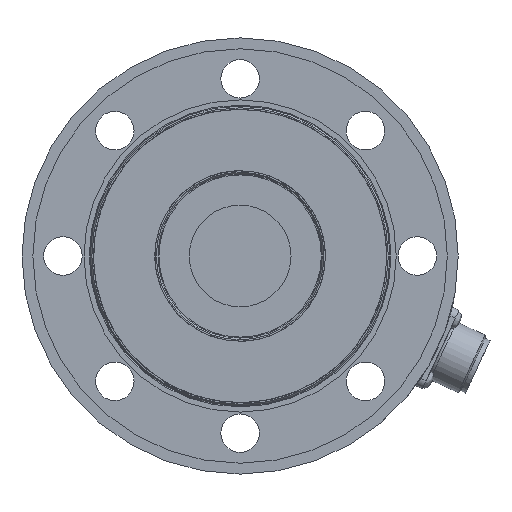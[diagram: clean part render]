
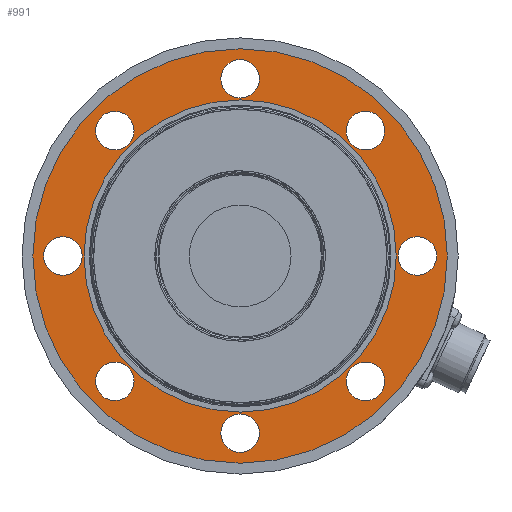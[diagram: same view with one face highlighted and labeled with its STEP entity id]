
A CAD part, front view. The second image highlights one B-rep face of the part: STEP entity #991.
In plain terms, the highlighted planar face has unit normal (0, -1, 0).
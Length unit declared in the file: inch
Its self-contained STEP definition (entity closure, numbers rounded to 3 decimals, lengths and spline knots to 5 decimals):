
#32 = FACE_BOUND ( 'NONE', #2883, .T. ) ;
#43 = EDGE_CURVE ( 'NONE', #1572, #1572, #1064, .T. ) ;
#68 = FACE_BOUND ( 'NONE', #2516, .T. ) ;
#107 = CARTESIAN_POINT ( 'NONE',  ( 0., 0.015, -2.4375 ) ) ;
#176 = DIRECTION ( 'NONE',  ( 1., 0., 0. ) ) ;
#189 = ORIENTED_EDGE ( 'NONE', *, *, #2786, .T. ) ;
#240 = DIRECTION ( 'NONE',  ( -1., 0., 0. ) ) ;
#450 = CARTESIAN_POINT ( 'NONE',  ( -2.4375, 0.015, 0. ) ) ;
#508 = CIRCLE ( 'NONE', #2051, 0.265 ) ;
#546 = VERTEX_POINT ( 'NONE', #3677 ) ;
#741 = CARTESIAN_POINT ( 'NONE',  ( 1.98857, 0.015, 1.72357 ) ) ;
#777 = DIRECTION ( 'NONE',  ( 1., 0., 0. ) ) ;
#780 = CIRCLE ( 'NONE', #2572, 2.147 ) ;
#786 = CARTESIAN_POINT ( 'NONE',  ( 0.265, 0.015, -2.4375 ) ) ;
#803 = VERTEX_POINT ( 'NONE', #741 ) ;
#812 = CARTESIAN_POINT ( 'NONE',  ( -2.85, 0.015, 0. ) ) ;
#819 = EDGE_CURVE ( 'NONE', #1904, #1904, #1284, .T. ) ;
#846 = VERTEX_POINT ( 'NONE', #1718 ) ;
#875 = FACE_BOUND ( 'NONE', #1299, .T. ) ;
#911 = FACE_BOUND ( 'NONE', #2805, .T. ) ;
#991 = ADVANCED_FACE ( 'NONE', ( #1742, #3465, #68, #911, #3426, #2535, #1698, #875, #32, #3313 ), #1741, .F. ) ;
#992 = EDGE_CURVE ( 'NONE', #2024, #2024, #780, .T. ) ;
#1005 = CARTESIAN_POINT ( 'NONE',  ( 1.98857, 0.015, -1.72357 ) ) ;
#1036 = CARTESIAN_POINT ( 'NONE',  ( -2.147, 0.015, 0. ) ) ;
#1053 = CARTESIAN_POINT ( 'NONE',  ( -1.72357, 0.015, 1.72357 ) ) ;
#1064 = CIRCLE ( 'NONE', #3836, 0.265 ) ;
#1129 = CARTESIAN_POINT ( 'NONE',  ( 0., 0.015, 0. ) ) ;
#1284 = CIRCLE ( 'NONE', #3762, 0.265 ) ;
#1287 = CARTESIAN_POINT ( 'NONE',  ( -1.72357, 0.015, -1.72357 ) ) ;
#1299 = EDGE_LOOP ( 'NONE', ( #2124 ) ) ;
#1312 = DIRECTION ( 'NONE',  ( 0., 1., 0. ) ) ;
#1316 = CIRCLE ( 'NONE', #2374, 0.265 ) ;
#1348 = DIRECTION ( 'NONE',  ( 0., 1., 0. ) ) ;
#1359 = DIRECTION ( 'NONE',  ( 1., 0., 0. ) ) ;
#1443 = DIRECTION ( 'NONE',  ( -1., 0., 0. ) ) ;
#1490 = EDGE_CURVE ( 'NONE', #803, #803, #2192, .T. ) ;
#1536 = CARTESIAN_POINT ( 'NONE',  ( 2.4375, 0.015, 0. ) ) ;
#1558 = ORIENTED_EDGE ( 'NONE', *, *, #3516, .T. ) ;
#1570 = AXIS2_PLACEMENT_3D ( 'NONE', #3271, #1348, #3613 ) ;
#1572 = VERTEX_POINT ( 'NONE', #1005 ) ;
#1608 = DIRECTION ( 'NONE',  ( 1., 0., 0. ) ) ;
#1698 = FACE_BOUND ( 'NONE', #3170, .T. ) ;
#1718 = CARTESIAN_POINT ( 'NONE',  ( 2.7025, 0.015, 0. ) ) ;
#1741 = PLANE ( 'NONE',  #2781 ) ;
#1742 = FACE_BOUND ( 'NONE', #3799, .T. ) ;
#1780 = CIRCLE ( 'NONE', #3519, 0.265 ) ;
#1784 = DIRECTION ( 'NONE',  ( 1., 0., 0. ) ) ;
#1846 = DIRECTION ( 'NONE',  ( 1., 0., 0. ) ) ;
#1904 = VERTEX_POINT ( 'NONE', #2288 ) ;
#1909 = ORIENTED_EDGE ( 'NONE', *, *, #992, .F. ) ;
#1984 = DIRECTION ( 'NONE',  ( 0., 1., 0. ) ) ;
#1989 = EDGE_CURVE ( 'NONE', #3019, #3019, #508, .T. ) ;
#1997 = ORIENTED_EDGE ( 'NONE', *, *, #3804, .T. ) ;
#2024 = VERTEX_POINT ( 'NONE', #1036 ) ;
#2051 = AXIS2_PLACEMENT_3D ( 'NONE', #1053, #3279, #1359 ) ;
#2054 = CARTESIAN_POINT ( 'NONE',  ( -2.1725, 0.015, 0. ) ) ;
#2121 = DIRECTION ( 'NONE',  ( 0., -1., 0. ) ) ;
#2124 = ORIENTED_EDGE ( 'NONE', *, *, #2979, .T. ) ;
#2192 = CIRCLE ( 'NONE', #2630, 0.265 ) ;
#2229 = AXIS2_PLACEMENT_3D ( 'NONE', #107, #1984, #1784 ) ;
#2288 = CARTESIAN_POINT ( 'NONE',  ( -1.45857, 0.015, -1.72357 ) ) ;
#2315 = ORIENTED_EDGE ( 'NONE', *, *, #1989, .T. ) ;
#2350 = AXIS2_PLACEMENT_3D ( 'NONE', #4111, #2121, #240 ) ;
#2374 = AXIS2_PLACEMENT_3D ( 'NONE', #1536, #3807, #1846 ) ;
#2405 = EDGE_LOOP ( 'NONE', ( #189 ) ) ;
#2516 = EDGE_LOOP ( 'NONE', ( #2702 ) ) ;
#2535 = FACE_BOUND ( 'NONE', #3286, .T. ) ;
#2572 = AXIS2_PLACEMENT_3D ( 'NONE', #1129, #3376, #1443 ) ;
#2630 = AXIS2_PLACEMENT_3D ( 'NONE', #3243, #1312, #3574 ) ;
#2655 = DIRECTION ( 'NONE',  ( 0., 1., 0. ) ) ;
#2702 = ORIENTED_EDGE ( 'NONE', *, *, #819, .T. ) ;
#2763 = CIRCLE ( 'NONE', #2229, 0.265 ) ;
#2781 = AXIS2_PLACEMENT_3D ( 'NONE', #4037, #3008, #176 ) ;
#2786 = EDGE_CURVE ( 'NONE', #4088, #4088, #2763, .T. ) ;
#2787 = ORIENTED_EDGE ( 'NONE', *, *, #1490, .T. ) ;
#2805 = EDGE_LOOP ( 'NONE', ( #3080 ) ) ;
#2860 = CIRCLE ( 'NONE', #2350, 2.85 ) ;
#2883 = EDGE_LOOP ( 'NONE', ( #1909 ) ) ;
#2918 = CIRCLE ( 'NONE', #1570, 0.265 ) ;
#2979 = EDGE_CURVE ( 'NONE', #846, #846, #1316, .T. ) ;
#3008 = DIRECTION ( 'NONE',  ( 0., 1., 0. ) ) ;
#3019 = VERTEX_POINT ( 'NONE', #3636 ) ;
#3068 = VERTEX_POINT ( 'NONE', #2054 ) ;
#3080 = ORIENTED_EDGE ( 'NONE', *, *, #3605, .T. ) ;
#3170 = EDGE_LOOP ( 'NONE', ( #2787 ) ) ;
#3243 = CARTESIAN_POINT ( 'NONE',  ( 1.72357, 0.015, 1.72357 ) ) ;
#3271 = CARTESIAN_POINT ( 'NONE',  ( 0., 0.015, 2.4375 ) ) ;
#3279 = DIRECTION ( 'NONE',  ( 0., 1., 0. ) ) ;
#3286 = EDGE_LOOP ( 'NONE', ( #1558 ) ) ;
#3313 = FACE_OUTER_BOUND ( 'NONE', #3789, .T. ) ;
#3339 = VERTEX_POINT ( 'NONE', #812 ) ;
#3376 = DIRECTION ( 'NONE',  ( 0., -1., 0. ) ) ;
#3426 = FACE_BOUND ( 'NONE', #3827, .T. ) ;
#3465 = FACE_BOUND ( 'NONE', #2405, .T. ) ;
#3516 = EDGE_CURVE ( 'NONE', #546, #546, #2918, .T. ) ;
#3519 = AXIS2_PLACEMENT_3D ( 'NONE', #450, #2655, #777 ) ;
#3552 = DIRECTION ( 'NONE',  ( 0., 1., 0. ) ) ;
#3574 = DIRECTION ( 'NONE',  ( 1., 0., 0. ) ) ;
#3605 = EDGE_CURVE ( 'NONE', #3068, #3068, #1780, .T. ) ;
#3613 = DIRECTION ( 'NONE',  ( 1., 0., 0. ) ) ;
#3636 = CARTESIAN_POINT ( 'NONE',  ( -1.45857, 0.015, 1.72357 ) ) ;
#3677 = CARTESIAN_POINT ( 'NONE',  ( 0.265, 0.015, 2.4375 ) ) ;
#3762 = AXIS2_PLACEMENT_3D ( 'NONE', #1287, #3552, #1608 ) ;
#3771 = DIRECTION ( 'NONE',  ( 1., 0., 0. ) ) ;
#3785 = DIRECTION ( 'NONE',  ( 0., 1., 0. ) ) ;
#3789 = EDGE_LOOP ( 'NONE', ( #1997 ) ) ;
#3794 = CARTESIAN_POINT ( 'NONE',  ( 1.72357, 0.015, -1.72357 ) ) ;
#3799 = EDGE_LOOP ( 'NONE', ( #3998 ) ) ;
#3804 = EDGE_CURVE ( 'NONE', #3339, #3339, #2860, .T. ) ;
#3807 = DIRECTION ( 'NONE',  ( 0., 1., 0. ) ) ;
#3827 = EDGE_LOOP ( 'NONE', ( #2315 ) ) ;
#3836 = AXIS2_PLACEMENT_3D ( 'NONE', #3794, #3785, #3771 ) ;
#3998 = ORIENTED_EDGE ( 'NONE', *, *, #43, .T. ) ;
#4037 = CARTESIAN_POINT ( 'NONE',  ( 0., 0.015, -2.85 ) ) ;
#4088 = VERTEX_POINT ( 'NONE', #786 ) ;
#4111 = CARTESIAN_POINT ( 'NONE',  ( 0., 0.015, 0. ) ) ;
